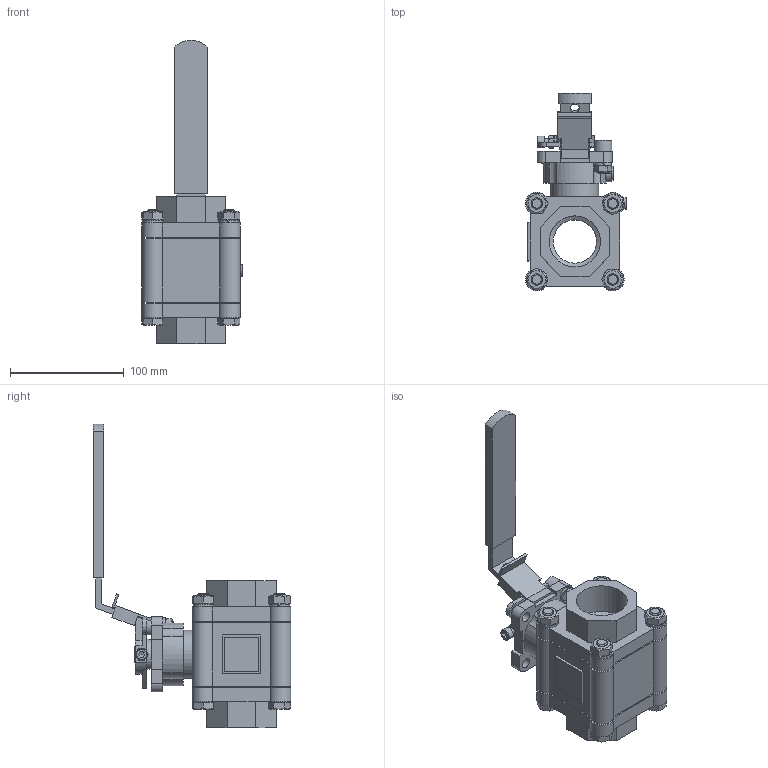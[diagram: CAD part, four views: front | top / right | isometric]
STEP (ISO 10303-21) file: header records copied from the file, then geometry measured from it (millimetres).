
FILE_DESCRIPTION(/* description */ ('Eriks item no: 13278900'),/* implementation_level */ '2;1');
FILE_NAME(/* name */ 'L:\DATA\ENG\Inventor\Econ 3D modellen\kogelkranen\7442\Rubens Versie\7442-DN40-FB.stp',/* time_stamp */ '2023-06-08T07:53:00+02:00',/* author */ ('roger.thijssen'),/* organization */ (''),/* preprocessor_version */ 'ST-DEVELOPER v18',/* originating_system */ 'Autodesk Inventor 2020',/* authorisation */ '');
FILE_SCHEMA (('CONFIG_CONTROL_DESIGN'));
Length unit declared in the file: millimetre
Products named in the file (1): Ball valve, 7442 - 1.1/2" - FB, (TF4103)
Bounding box: 88.57 x 173.28 x 266.5 mm (x, y, z)
Volume: 680214.3 mm3; surface area: 138299.7 mm2
Topology: 1 solids, 1 shells, 609 faces, 1602 edges, 1049 vertices
Faces by surface type: plane 384, cylinder 133, cone 60, bspline 30, torus 2
Full cylindrical faces by diameter (mm): 6 x1, 6.4 x1, 8 x3, 8.9 x1, 9 x5, 10 x10, 11 x12, 12 x1, 15.5 x1, 15.6 x4, 38 x1, 42 x2, 44.845 x2, 55 x1, 78.5 x2
Entity records: 19313 total; most frequent: CARTESIAN_POINT 4194, ORIENTED_EDGE 3202, DIRECTION 2975, EDGE_CURVE 1601, VERTEX_POINT 1049, AXIS2_PLACEMENT_3D 1028, LINE 919, VECTOR 919
